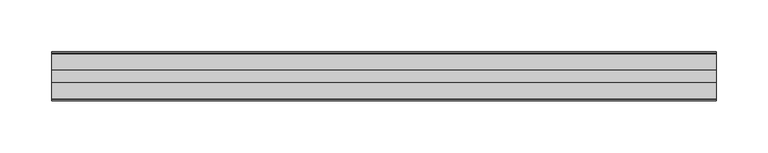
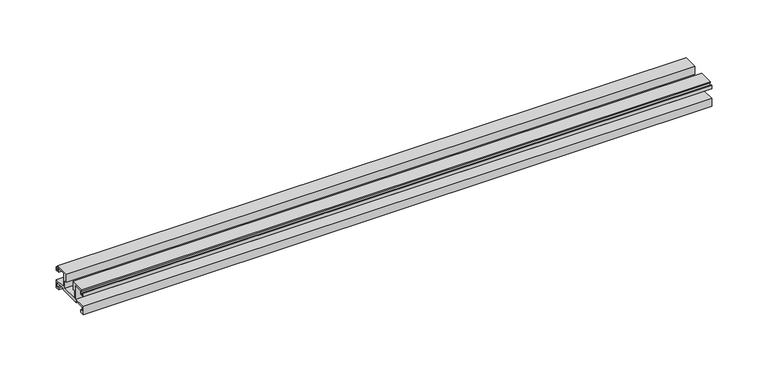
"""IFC4 building model written with IfcOpenShell, lengths in millimetres: proxy geometry, Weiku - Montante - Acoplamento vidro : Weiku - Montante - Acoplamento vidro."""

from ifc_helpers import new_model, si_unit, frame, origin, place, context, project, spatial, polyline, outline, extrude, source, transform, mapped, element, save


def generic_models_e704d30b(model_context):
    return source(origin(), model_context, "Body", "SweptSolid", [
        extrude(outline(polyline([(-35.405, 5.1494), (-35.405, 6.8004), (-45.741, 6.8004), (-45.741, 2.6094), (-43.8784, 2.6094), (-43.8784, 0.0), (-47.9014508, 0.0), (-47.9014508, 8.79), (-34.946, 8.79), (-34.946, 23.3104), (-43.5397, 23.3104), (-43.5397, 19.204), (-47.9, 19.204), (-47.9, 22.8024), (-46.9264, 22.8024), (-46.9264, 20.3894), (-44.725, 20.3894), (-44.725, 23.9454), (-45.5264504, 23.9454), (-45.5264504, 25.3), (-30.4164, 25.3), (-30.4164, 16.283), (-32.4484, 16.283), (-32.4484, 8.8), (-15.4516, 8.8), (-15.4516, 16.283), (-17.4836, 16.283), (-17.4836, 25.3), (-2.3735496, 25.3), (-2.3735496, 23.9454), (-3.175, 23.9454), (-3.175, 20.3894), (-0.9736, 20.3894), (-0.9736, 22.8024), (0.0, 22.8024), (0.0, 19.204), (-4.3603, 19.204), (-4.3603, 23.3104), (-12.954, 23.3104), (-12.954, 8.79), (0.0014508, 8.79), (0.0014508, 0.0), (-4.0216, 0.0), (-4.0216, 2.6094), (-2.159, 2.6094), (-2.159, 6.8004), (-12.495, 6.8004), (-12.495, 5.1494), (-35.405, 5.1494)])), frame((-322.35, 0.0, 0.0), z_axis=(1.0, 0.0, 0.0), x_axis=(0.0, 1.0, 0.0)), (0.0, 0.0, 1.0), 644.7),
    ])


if __name__ == "__main__":
    model = new_model("IFC4")
    model_context = context("Model", 3, world=origin())
    ifc_project = project(units=[si_unit("LENGTHUNIT", "METRE", prefix="MILLI")], contexts=[model_context])
    site = spatial("IfcSite", under=ifc_project)
    building = spatial("IfcBuilding", under=site)
    placement = place(None, origin())
    generic_models_shape = generic_models_e704d30b(model_context)
    element("IfcBuildingElementProxy", 1, Name="Weiku - Montante - Acoplamento vidro : Weiku - Montante - Acoplamento vidro", ObjectType="Weiku - Montante - Acoplamento vidro : Weiku - Montante - Acoplamento vidro", at=placement, inside=building, context=model_context, shape_type="MappedRepresentation", body=[
        mapped(generic_models_shape, transform((0.0, 0.0, 0.0), x_axis=(1.0, 0.0, 0.0), y_axis=(0.0, 1.0, 0.0), z_axis=(0.0, 0.0, 1.0))),
    ])
    save(model, "model.ifc")
